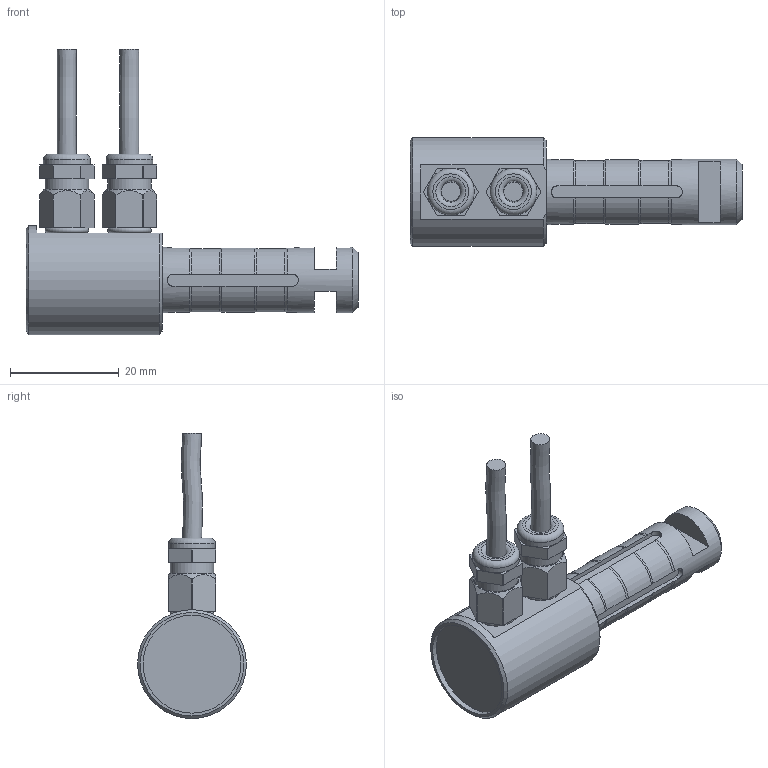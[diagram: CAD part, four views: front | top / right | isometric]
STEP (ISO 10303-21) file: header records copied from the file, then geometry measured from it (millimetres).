
FILE_DESCRIPTION(/* description */ ('Alibre Inc.'),/* implementation_level */ '2;1');
FILE_NAME(/* name */ 'export2',/* time_stamp */ '2014-12-08T21:38:28+01:00',/* author */ (''),/* organization */ (''),/* preprocessor_version */ 'ST-DEVELOPER v14',/* originating_system */ 'Alibre',/* authorisation */ '');
FILE_SCHEMA (('CONFIG_CONTROL_DESIGN'));
Length unit declared in the file: centimetre
Products named in the file (6): ID_1; ID_2; ID_3
Bounding box: 61 x 20 x 52.39 mm (x, y, z)
Volume: 12705 mm3; surface area: 6188.9 mm2
Topology: 7 solids, 7 shells, 215 faces, 561 edges, 371 vertices
Faces by surface type: plane 109, cylinder 73, torus 22, cone 9, bspline 2
Full cylindrical faces by diameter (mm): 3.5 x2, 6 x2, 6.917 x1, 8 x2, 8.6 x2, 12 x2, 18 x1, 20 x1
Entity records: 6263 total; most frequent: CARTESIAN_POINT 1804, ORIENTED_EDGE 866, DIRECTION 643, EDGE_CURVE 433, VERTEX_POINT 297, VECTOR 249, LINE 249, AXIS2_PLACEMENT_3D 242
